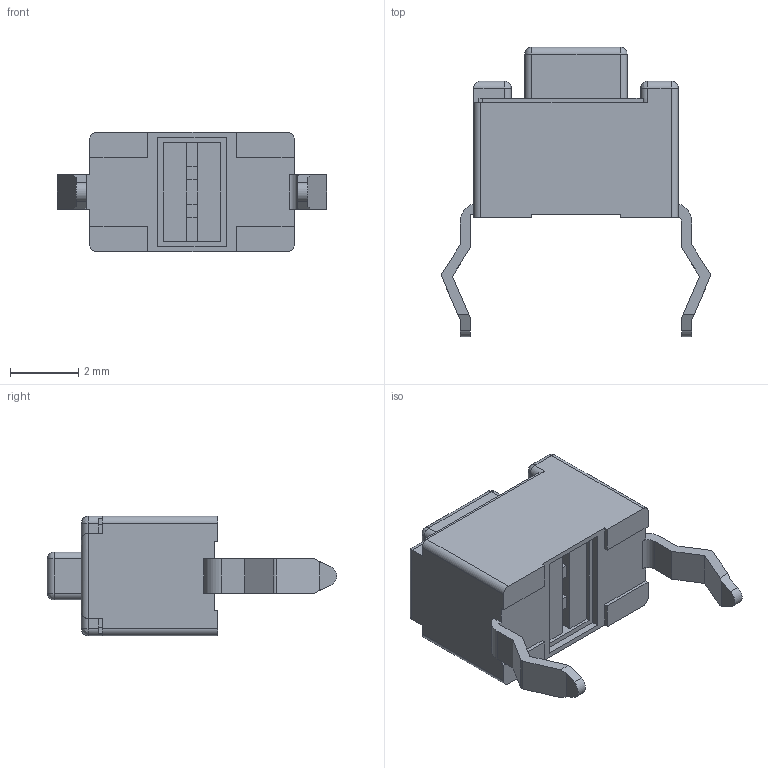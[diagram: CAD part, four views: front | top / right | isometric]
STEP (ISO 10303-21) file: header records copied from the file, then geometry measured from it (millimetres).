
FILE_DESCRIPTION (( 'STEP AP203' ), '1' );
FILE_NAME ('EVQPE405Q.STEP', '2013-09-06T11:42:08', ( '全社標準ＰＣ' ), ( 'パナソニック株式会社' ), 'SwSTEP 2.0', 'SolidWorks 2012', '' );
FILE_SCHEMA (( 'CONFIG_CONTROL_DESIGN' ));
Length unit declared in the file: millimetre
Products named in the file (1): EVQPE405Q
Bounding box: 7.9 x 8.5 x 3.5 mm (x, y, z)
Volume: 80.4 mm3; surface area: 155.2 mm2
Topology: 1 solids, 1 shells, 150 faces, 404 edges, 248 vertices
Faces by surface type: plane 100, cylinder 38, bspline 8, sphere 4
Entity records: 4691 total; most frequent: CARTESIAN_POINT 923, ORIENTED_EDGE 784, DIRECTION 744, EDGE_CURVE 392, VECTOR 318, LINE 318, VERTEX_POINT 248, AXIS2_PLACEMENT_3D 213
